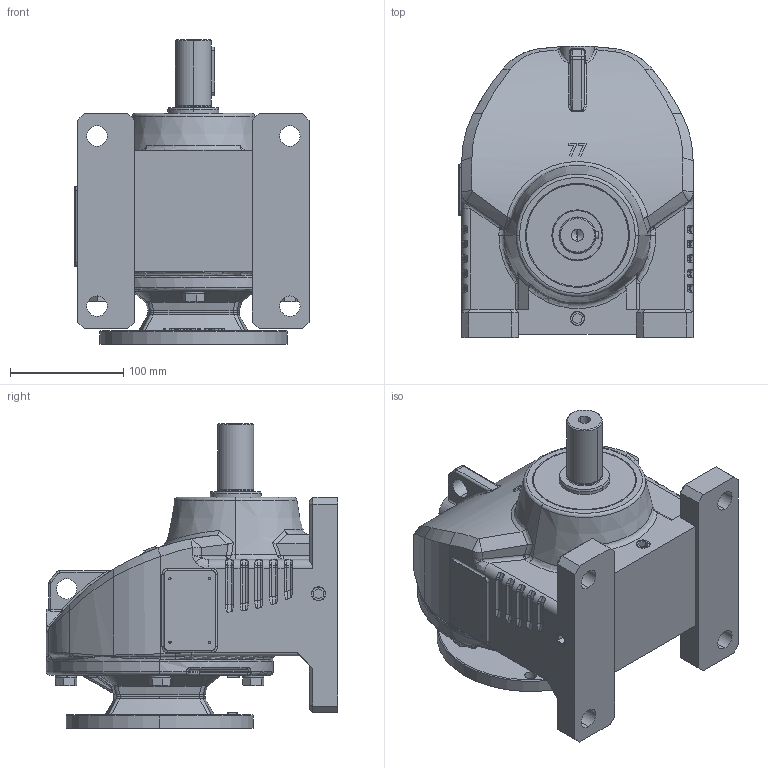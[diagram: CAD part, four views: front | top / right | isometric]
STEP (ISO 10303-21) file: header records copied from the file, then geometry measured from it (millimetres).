
FILE_DESCRIPTION (( 'STEP AP203' ), '1' );
FILE_NAME ('RX077HF-143TC.STEP', '2015-03-16T05:35:37', ( 'user' ), ( '' ), 'SwSTEP 2.0', 'SolidWorks 2012', '' );
FILE_SCHEMA (( 'CONFIG_CONTROL_DESIGN' ));
Length unit declared in the file: millimetre
Products named in the file (25): RX077HF-143TC; PCA025; PCA040_JIS B 2804 Shaft use 40; PCB090; PSS045090101; PBA6308_SKF - 6308 - 10,DE,NC,10_68; JKGB07791L_JKGB07791L; 077ªkÄõ¤J¤O²Õ¦X143T_1HP-¡í12; PJB02; PKD0303015; PCA012_JIS B 2804 Shaft use 12; P101_JKGA1222R; PWS10; PTBA10030; PSS040055081; PBA6008_PBA6008; PTAA08030; KNGH143Txx_KNGH143T12; KFGG143T; JHGA07701; PKD0807018S; PKD1_4043; PBA6306; KEGX077; JCHX077
Assembly tree (39 placements, depth 3):
  RX077HF-143TC
    JCHX077
    KEGX077
    PBA6306
    PKD1_4043
    PKD0807018S
    077ªkÄõ¤J¤O²Õ¦X143T_1HP-¡í12
      JHGA07701
      KFGG143T
      KNGH143Txx_KNGH143T12
      PTAA08030  x4
      PBA6008_PBA6008  x2
      PSS040055081
      PTBA10030  x4
      PWS10  x4
      P101_JKGA1222R
      PCA012_JIS B 2804 Shaft use 12
      PKD0303015
      PJB02
    JKGB07791L_JKGB07791L
    PJB02  x5
    PBA6308_SKF - 6308 - 10,DE,NC,10_68
    PSS045090101
    PCB090
    PCA040_JIS B 2804 Shaft use 40
    PCA025
Bounding box: 206.5 x 257.01 x 268.7 mm (x, y, z)
Volume: 2922163.3 mm3; surface area: 730501.1 mm2
Topology: 38 solids, 40 shells, 2008 faces, 5595 edges, 3519 vertices
Faces by surface type: plane 591, cylinder 580, torus 301, bspline 230, cone 198, sphere 108
Entity records: 73025 total; most frequent: CARTESIAN_POINT 28963, ORIENTED_EDGE 9022, DIRECTION 8156, EDGE_CURVE 4511, AXIS2_PLACEMENT_3D 3321, VERTEX_POINT 2869, EDGE_LOOP 1908, CIRCLE 1788
